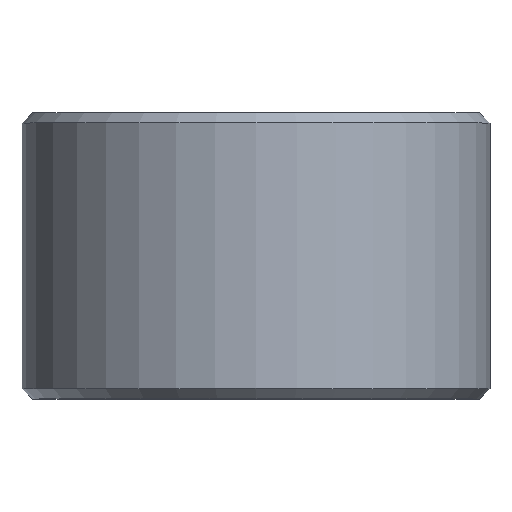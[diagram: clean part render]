
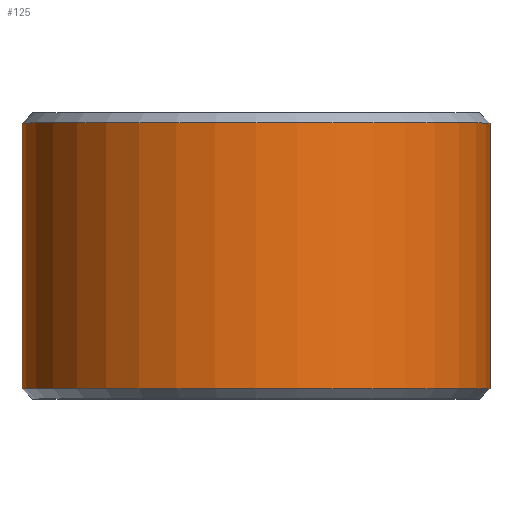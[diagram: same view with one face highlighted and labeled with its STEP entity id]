
A CAD part, top view. The second image highlights one B-rep face of the part: STEP entity #125.
In plain terms, the highlighted cylindrical face has radius 7.29 mm (diameter 14.58 mm), a full revolution.
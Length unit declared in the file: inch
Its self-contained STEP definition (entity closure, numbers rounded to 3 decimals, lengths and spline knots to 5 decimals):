
#15=CYLINDRICAL_SURFACE('',#158,0.287);
#22=FACE_OUTER_BOUND('',#31,.T.);
#31=EDGE_LOOP('',(#92,#93,#94,#95));
#39=LINE('',#228,#45);
#45=VECTOR('',#188,0.287);
#51=CIRCLE('',#155,0.287);
#53=CIRCLE('',#159,0.287);
#61=VERTEX_POINT('',#219);
#63=VERTEX_POINT('',#226);
#72=EDGE_CURVE('',#61,#61,#51,.T.);
#74=EDGE_CURVE('',#63,#63,#53,.T.);
#75=EDGE_CURVE('',#63,#61,#39,.T.);
#92=ORIENTED_EDGE('',*,*,#74,.F.);
#93=ORIENTED_EDGE('',*,*,#75,.T.);
#94=ORIENTED_EDGE('',*,*,#72,.F.);
#95=ORIENTED_EDGE('',*,*,#75,.F.);
#125=ADVANCED_FACE('',(#22),#15,.T.);
#155=AXIS2_PLACEMENT_3D('',#221,#178,#179);
#158=AXIS2_PLACEMENT_3D('',#225,#184,#185);
#159=AXIS2_PLACEMENT_3D('',#227,#186,#187);
#178=DIRECTION('center_axis',(0.,-1.,0.));
#179=DIRECTION('ref_axis',(1.,0.,0.));
#184=DIRECTION('center_axis',(0.,1.,0.));
#185=DIRECTION('ref_axis',(1.,0.,0.));
#186=DIRECTION('center_axis',(0.,1.,0.));
#187=DIRECTION('ref_axis',(1.,0.,0.));
#188=DIRECTION('',(0.,-1.,0.));
#219=CARTESIAN_POINT('',(-0.287,0.0125,0.));
#221=CARTESIAN_POINT('Origin',(0.,0.0125,0.));
#225=CARTESIAN_POINT('Origin',(0.,0.,0.));
#226=CARTESIAN_POINT('',(-0.287,0.3385,0.));
#227=CARTESIAN_POINT('Origin',(0.,0.3385,0.));
#228=CARTESIAN_POINT('',(-0.287,0.,0.));
